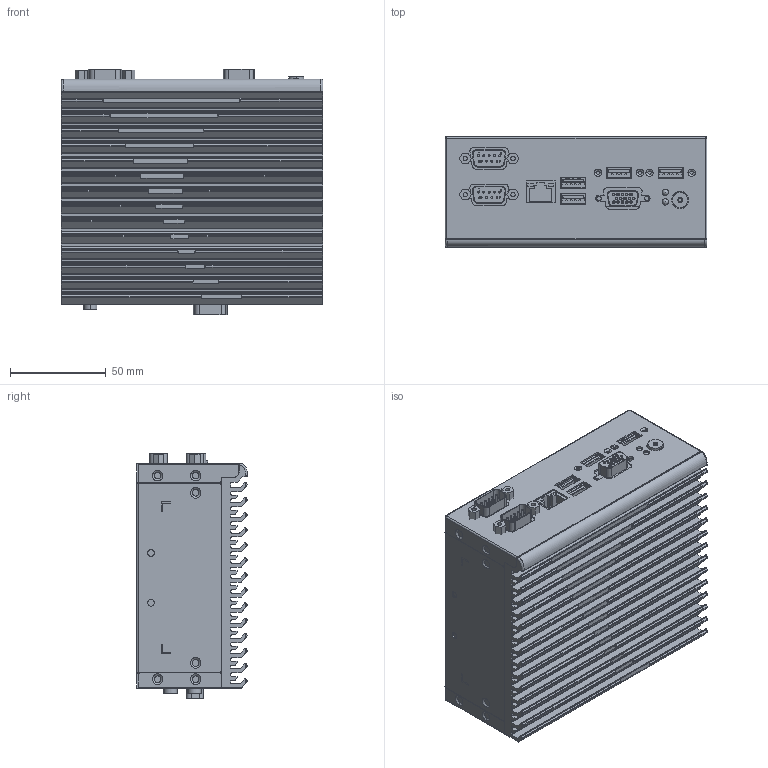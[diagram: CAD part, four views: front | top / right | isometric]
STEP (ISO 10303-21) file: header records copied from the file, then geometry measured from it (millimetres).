
FILE_DESCRIPTION (( 'STEP AP203' ), '1' );
FILE_NAME ('AIIS-1200U.STEP', '2017-06-20T07:42:10', ( 'ITD.MIS' ), ( '' ), 'SwSTEP 2.0', 'SolidWorks 2016', '' );
FILE_SCHEMA (( 'CONFIG_CONTROL_DESIGN' ));
Products named in the file (1): AIIS-1200U
Bounding box: 137 x 58 x 128.37 mm (x, y, z)
Volume: 354471.1 mm3; surface area: 236260 mm2
Topology: 22 solids, 28 shells, 5778 faces, 15551 edges, 10174 vertices
Faces by surface type: plane 4572, cylinder 1014, bspline 106, torus 52, cone 32, sphere 2
Entity records: 185025 total; most frequent: CARTESIAN_POINT 39939, ORIENTED_EDGE 31084, DIRECTION 28061, EDGE_CURVE 15542, VECTOR 12997, LINE 12997, VERTEX_POINT 10172, AXIS2_PLACEMENT_3D 7532
